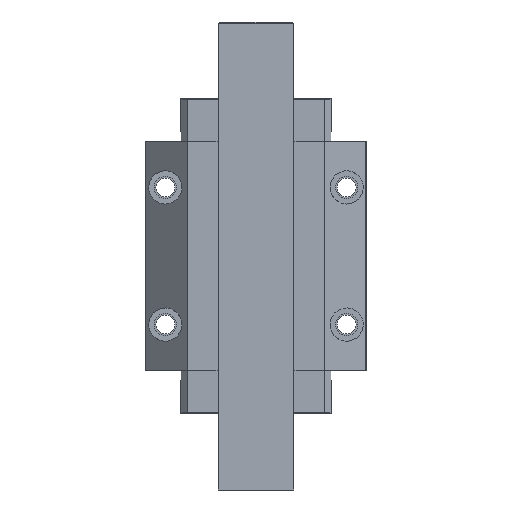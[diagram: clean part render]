
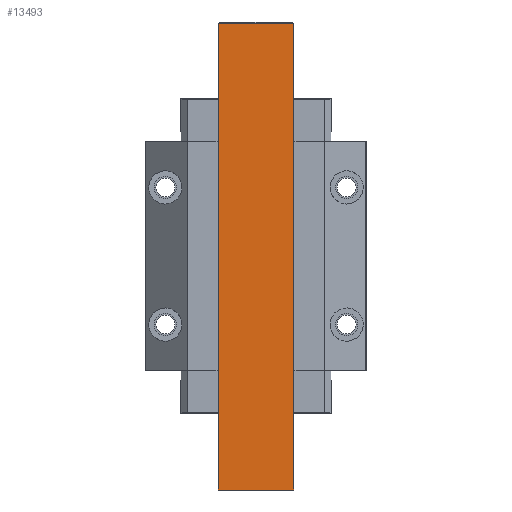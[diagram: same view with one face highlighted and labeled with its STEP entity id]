
A CAD part, front view. The second image highlights one B-rep face of the part: STEP entity #13493.
In plain terms, the highlighted planar face has unit normal (0, -1, 0).
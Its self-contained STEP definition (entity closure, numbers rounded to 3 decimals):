
#12830=DIRECTION('',(1.,0.,0.));
#12831=VECTOR('',#12830,34.);
#12832=CARTESIAN_POINT('',(-17.,-18.9,-105.8));
#12833=LINE('',#12832,#12831);
#12954=DIRECTION('',(0.,0.,1.));
#12955=VECTOR('',#12954,210.734);
#12956=CARTESIAN_POINT('',(17.,-18.9,-105.8));
#12957=LINE('',#12956,#12955);
#12958=DIRECTION('',(1.,0.,0.));
#12959=VECTOR('',#12958,34.);
#12960=CARTESIAN_POINT('',(-17.,-18.9,104.934));
#12961=LINE('',#12960,#12959);
#12962=DIRECTION('',(0.,0.,1.));
#12963=VECTOR('',#12962,210.734);
#12964=CARTESIAN_POINT('',(-17.,-18.9,-105.8));
#12965=LINE('',#12964,#12963);
#13146=CARTESIAN_POINT('',(17.,-18.9,104.934));
#13148=VERTEX_POINT('',#13146);
#13150=CARTESIAN_POINT('',(-17.,-18.9,104.934));
#13152=VERTEX_POINT('',#13150);
#13194=CARTESIAN_POINT('',(-17.,-18.9,-105.8));
#13195=VERTEX_POINT('',#13194);
#13196=CARTESIAN_POINT('',(17.,-18.9,-105.8));
#13197=VERTEX_POINT('',#13196);
#13480=CARTESIAN_POINT('',(-17.,-18.9,-105.8));
#13481=DIRECTION('',(0.,-1.,0.));
#13482=DIRECTION('',(1.,0.,0.));
#13483=AXIS2_PLACEMENT_3D('',#13480,#13481,#13482);
#13484=PLANE('',#13483);
#13486=ORIENTED_EDGE('',*,*,#13485,.T.);
#13487=ORIENTED_EDGE('',*,*,#13475,.F.);
#13488=ORIENTED_EDGE('',*,*,#13235,.F.);
#13490=ORIENTED_EDGE('',*,*,#13489,.T.);
#13491=EDGE_LOOP('',(#13486,#13487,#13488,#13490));
#13492=FACE_OUTER_BOUND('',#13491,.F.);
#13235=EDGE_CURVE('',#13195,#13197,#12833,.T.);
#13475=EDGE_CURVE('',#13197,#13148,#12957,.T.);
#13485=EDGE_CURVE('',#13152,#13148,#12961,.T.);
#13489=EDGE_CURVE('',#13195,#13152,#12965,.T.);
#13493=ADVANCED_FACE('',(#13492),#13484,.T.);
